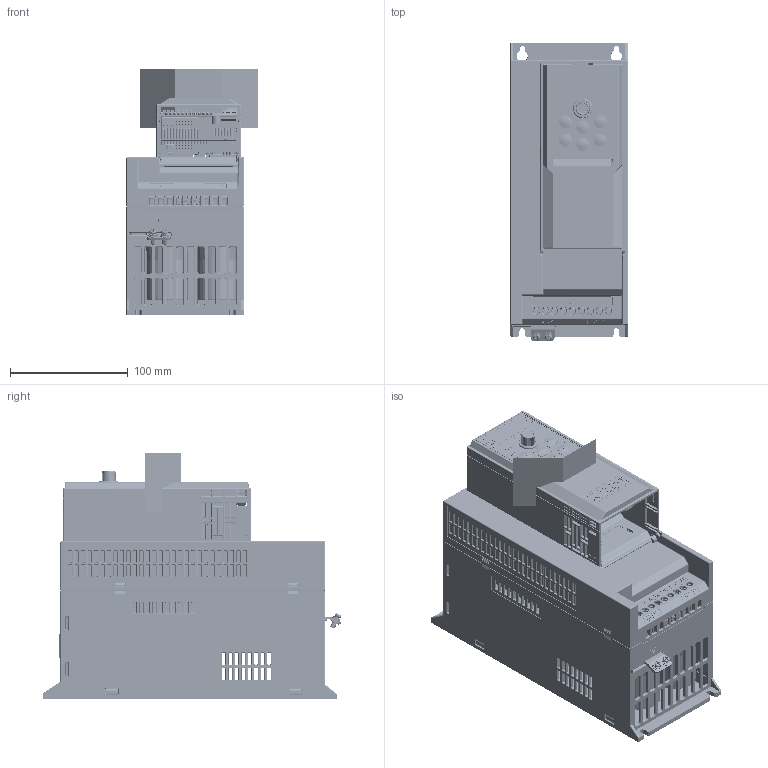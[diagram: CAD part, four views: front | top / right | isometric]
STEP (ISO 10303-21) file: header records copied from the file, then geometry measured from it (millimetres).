
FILE_DESCRIPTION((''),'2;1');
FILE_NAME('AD800P-D3-DRIVE_ASM','2024-12-11T09:51:27',('wendong.luo'),(''),'CREO PARAMETRIC BY PTC INC, 2018100','CREO PARAMETRIC BY PTC INC, 2018100','');
FILE_SCHEMA(('CONFIG_CONTROL_DESIGN','GEOMETRIC_VALIDATION_PROPERTIES_MIM'));
Products named in the file (57): D3_MECHANICAL_PART; E0200003; E0400127; E0400017; M0202003; AD800P-D3-PU_ASM; M0104149; E0100736; E0400142; E0400150; E0400073; E0400116; E0400023; E0100736_ASM; E0200416; M0104143; E0400117; E0100735; 0603; SOT-23; SO-14; E0300000; SOD-6; E0300008; LQFP64; 1206; SMD3215-2P; 0805; SO-8; P3_5_3_2_; SMM0207; SOT-223; TO252; SC70-6; 1210; E0400035; E0400118; E0400011; E0100735_ASM; M0104016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
Assembly tree (373 placements, depth 5):
  AD800P-D3-DRIVE_ASM
    AD800P-D3-PU_ASM
      D3_MECHANICAL_PART
      E0200003  x2
      E0400127
      E0400017
      M0202003  x2
    CU0P-ASSY_ASM
      M0104149
      E0100736_ASM
        E0100736
        E0400142
        E0400150
        E0400073  x2
        E0400116
        E0400023
      E0200416
      M0104143
      E0400117
      E0100735_ASM
        E0100735
        0603  x193
        SOT-23  x51
        SO-14  x2
        E0300000
        SOD-6  x4
        E0300008  x2
        LQFP64
        E0400116
        1206  x32
        SMD3215-2P
        0805  x20
        SO-8  x2
        P3_5_3_2_
        SMM0207  x2
        SOT-223
        TO252
        SC70-6
        1210  x2
        E0400035
        E0400118
        E0400023
        E0400011
      EXTERNAL_KEYPAD_ASM
        M0104016
        M0104018
        E0100102_ASM
          E0100102
          0805-LED  x6
          E0300012
          E0200191
          E0200192
          E0400038  x6
          E0400035
          E0400011
        M0104017
        M0203163
      M0203158
      M0203159
      M0104150
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Bounding box: 111.5 x 254.08 x 209 mm (x, y, z)
Volume: 1932632.3 mm3; surface area: 588212.1 mm2
Topology: 392 solids, 451 shells, 31806 faces, 82479 edges, 52568 vertices
Faces by surface type: plane 19335, cylinder 6492, bspline 2415, extrusion 1755, cone 960, torus 444, sphere 405
Entity records: 1142960 total; most frequent: CARTESIAN_POINT 312796, ORIENTED_EDGE 131164, DIRECTION 107855, EDGE_CURVE 65730, PRESENTATION_STYLE_ASSIGNMENT 62643, STYLED_ITEM 59926, CURVE_STYLE 54681, VECTOR 45679
